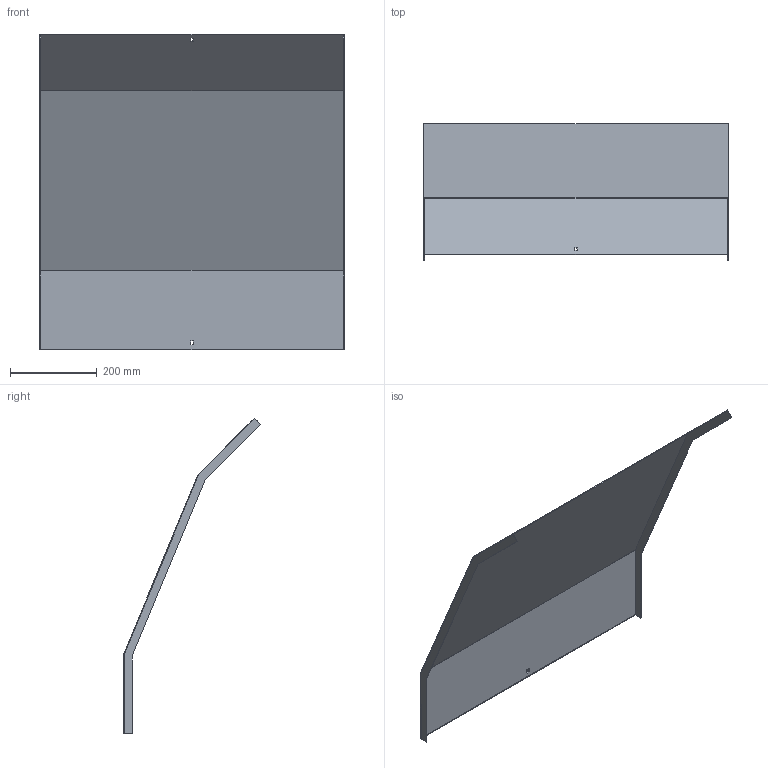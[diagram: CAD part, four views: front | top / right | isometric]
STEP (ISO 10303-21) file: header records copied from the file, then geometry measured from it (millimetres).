
FILE_DESCRIPTION (( 'STEP AP214' ), '1' );
FILE_NAME ('34N5F700.step', '2025-02-21T14:24:55', ( '' ), ( '' ), 'SwSTEP 2.0', 'SolidWorks 2023', '' );
FILE_SCHEMA (( 'AUTOMOTIVE_DESIGN' ));
Length unit declared in the file: millimetre
Products named in the file (1): 34N5F700
Bounding box: 703 x 316.43 x 729.78 mm (x, y, z)
Volume: 906604 mm3; surface area: 1213526.1 mm2
Topology: 1 solids, 1 shells, 26 faces, 72 edges, 48 vertices
Faces by surface type: plane 26
Entity records: 847 total; most frequent: CARTESIAN_POINT 147, ORIENTED_EDGE 144, DIRECTION 126, EDGE_CURVE 72, LINE 72, VECTOR 72, VERTEX_POINT 48, EDGE_LOOP 30
